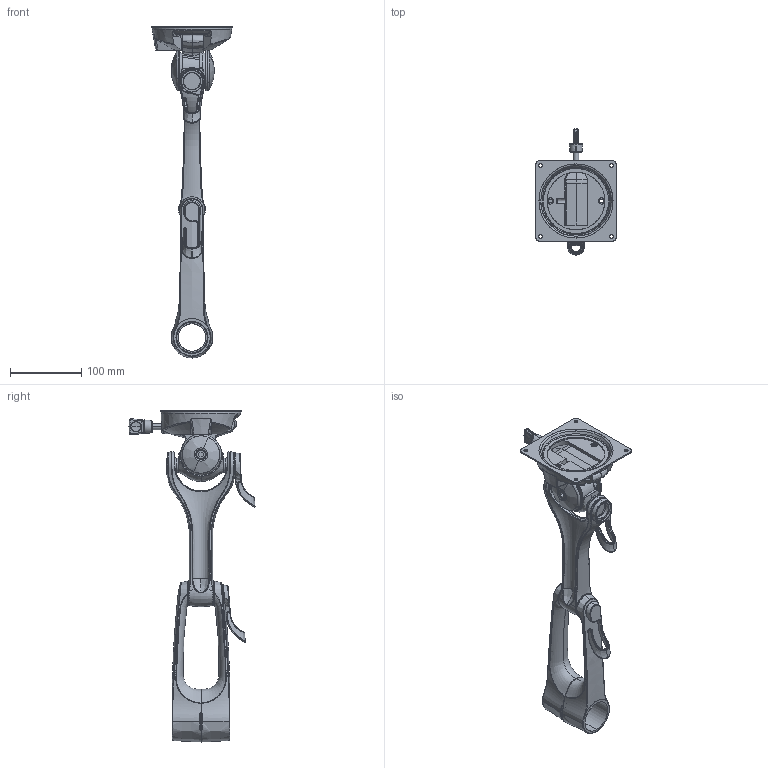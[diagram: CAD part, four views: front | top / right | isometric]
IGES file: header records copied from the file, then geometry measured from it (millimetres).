
Start section: SolidWorks IGES file using analytic representation for surfaces
Global section: file name: Z:\Customer CAD\Wishbone Plus\WSH-011_ARM.IGS; native system: SolidWorks 2013; preprocessor: SolidWorks 2013; author: custcad; date: 130522.143421; units: millimetre
Bounding box: 114 x 176.99 x 466.3 mm (x, y, z)
Surface area: 233640.4 mm2 (no closed solid volume)
Topology: 0 solids, 0 shells, 781 faces, 16906 edges, 17071 vertices
Faces by surface type: bspline 519, revolution 262
